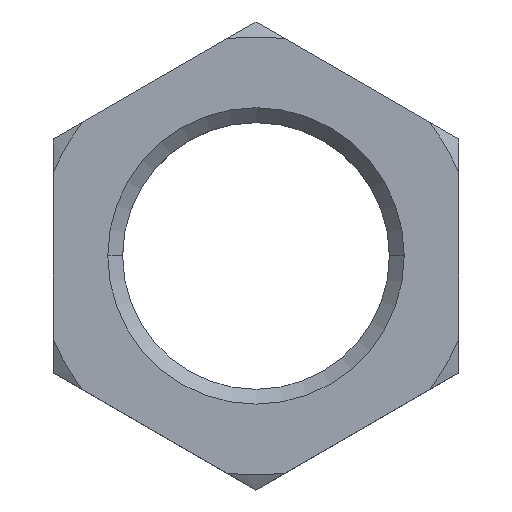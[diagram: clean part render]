
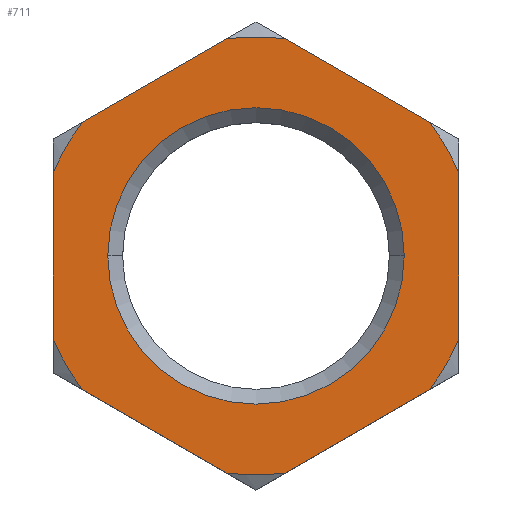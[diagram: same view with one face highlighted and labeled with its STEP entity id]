
A CAD part, top view. The second image highlights one B-rep face of the part: STEP entity #711.
In plain terms, the highlighted planar face has unit normal (0, 0, 1).
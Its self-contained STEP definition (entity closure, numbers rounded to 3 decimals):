
#2 = ORIENTED_EDGE ( 'NONE', *, *, #653, .F. ) ;
#8 = FACE_BOUND ( 'NONE', #648, .T. ) ;
#14 = ORIENTED_EDGE ( 'NONE', *, *, #275, .F. ) ;
#16 = CARTESIAN_POINT ( 'NONE',  ( -20.5, -8.445, 6.2 ) ) ;
#20 = CARTESIAN_POINT ( 'NONE',  ( 2.936, 21.976, 6.2 ) ) ;
#22 = DIRECTION ( 'NONE',  ( 0., -1., 0. ) ) ;
#32 = CARTESIAN_POINT ( 'NONE',  ( 0., 0., 6.2 ) ) ;
#64 = CARTESIAN_POINT ( 'NONE',  ( 0., 0., 6.2 ) ) ;
#65 = CARTESIAN_POINT ( 'NONE',  ( -15., 0., 6.2 ) ) ;
#73 = DIRECTION ( 'NONE',  ( 0., 0., 1. ) ) ;
#74 = DIRECTION ( 'NONE',  ( 1., 0., 0. ) ) ;
#89 = AXIS2_PLACEMENT_3D ( 'NONE', #121, #431, #844 ) ;
#96 = DIRECTION ( 'NONE',  ( 0., 0., -1. ) ) ;
#110 = LINE ( 'NONE', #250, #640 ) ;
#115 = ORIENTED_EDGE ( 'NONE', *, *, #188, .T. ) ;
#118 = EDGE_CURVE ( 'NONE', #346, #229, #159, .T. ) ;
#121 = CARTESIAN_POINT ( 'NONE',  ( 0., 0., 6.2 ) ) ;
#135 = CARTESIAN_POINT ( 'NONE',  ( -2.936, -21.976, 6.2 ) ) ;
#138 = AXIS2_PLACEMENT_3D ( 'NONE', #64, #371, #726 ) ;
#139 = VERTEX_POINT ( 'NONE', #145 ) ;
#143 = LINE ( 'NONE', #600, #769 ) ;
#145 = CARTESIAN_POINT ( 'NONE',  ( -17.564, 13.531, 6.2 ) ) ;
#154 = DIRECTION ( 'NONE',  ( 0., 0., -1. ) ) ;
#159 = LINE ( 'NONE', #791, #871 ) ;
#167 = CARTESIAN_POINT ( 'NONE',  ( 0., 0., 6.2 ) ) ;
#171 = DIRECTION ( 'NONE',  ( 1., 0., 0. ) ) ;
#183 = DIRECTION ( 'NONE',  ( -1., 0., 0. ) ) ;
#188 = EDGE_CURVE ( 'NONE', #361, #869, #110, .T. ) ;
#194 = AXIS2_PLACEMENT_3D ( 'NONE', #32, #758, #183 ) ;
#198 = CARTESIAN_POINT ( 'NONE',  ( 15., 0., 6.2 ) ) ;
#204 = EDGE_CURVE ( 'NONE', #552, #348, #387, .T. ) ;
#224 = DIRECTION ( 'NONE',  ( 0., 0., -1. ) ) ;
#227 = ORIENTED_EDGE ( 'NONE', *, *, #118, .T. ) ;
#229 = VERTEX_POINT ( 'NONE', #20 ) ;
#236 = VECTOR ( 'NONE', #813, 1000. ) ;
#242 = CARTESIAN_POINT ( 'NONE',  ( 0., 0., 6.2 ) ) ;
#246 = AXIS2_PLACEMENT_3D ( 'NONE', #491, #692, #620 ) ;
#250 = CARTESIAN_POINT ( 'NONE',  ( 0., -23.671, 6.2 ) ) ;
#257 = EDGE_CURVE ( 'NONE', #346, #687, #881, .T. ) ;
#261 = DIRECTION ( 'NONE',  ( 0.866, -0.5, 0. ) ) ;
#269 = CIRCLE ( 'NONE', #559, 22.171 ) ;
#273 = CARTESIAN_POINT ( 'NONE',  ( 2.936, -21.976, 6.2 ) ) ;
#275 = EDGE_CURVE ( 'NONE', #369, #139, #608, .T. ) ;
#277 = AXIS2_PLACEMENT_3D ( 'NONE', #167, #96, #171 ) ;
#286 = EDGE_CURVE ( 'NONE', #847, #139, #508, .T. ) ;
#292 = EDGE_CURVE ( 'NONE', #819, #639, #700, .T. ) ;
#295 = DIRECTION ( 'NONE',  ( -1., 0., 0. ) ) ;
#312 = ORIENTED_EDGE ( 'NONE', *, *, #257, .F. ) ;
#337 = ORIENTED_EDGE ( 'NONE', *, *, #204, .T. ) ;
#345 = EDGE_CURVE ( 'NONE', #348, #552, #534, .T. ) ;
#346 = VERTEX_POINT ( 'NONE', #436 ) ;
#348 = VERTEX_POINT ( 'NONE', #198 ) ;
#360 = AXIS2_PLACEMENT_3D ( 'NONE', #367, #514, #295 ) ;
#361 = VERTEX_POINT ( 'NONE', #273 ) ;
#367 = CARTESIAN_POINT ( 'NONE',  ( 0., 0., 6.2 ) ) ;
#369 = VERTEX_POINT ( 'NONE', #905 ) ;
#371 = DIRECTION ( 'NONE',  ( 0., 0., -1. ) ) ;
#387 = CIRCLE ( 'NONE', #277, 15. ) ;
#391 = PLANE ( 'NONE',  #656 ) ;
#408 = DIRECTION ( 'NONE',  ( -0.866, -0.5, 0. ) ) ;
#410 = CIRCLE ( 'NONE', #563, 22.171 ) ;
#414 = CARTESIAN_POINT ( 'NONE',  ( -17.564, -13.531, 6.2 ) ) ;
#422 = CARTESIAN_POINT ( 'NONE',  ( 0., 23.671, 6.2 ) ) ;
#431 = DIRECTION ( 'NONE',  ( 0., 0., -1. ) ) ;
#436 = CARTESIAN_POINT ( 'NONE',  ( 17.564, 13.531, 6.2 ) ) ;
#443 = EDGE_CURVE ( 'NONE', #819, #615, #625, .T. ) ;
#454 = EDGE_CURVE ( 'NONE', #847, #229, #269, .T. ) ;
#458 = DIRECTION ( 'NONE',  ( -0.866, 0.5, 0. ) ) ;
#474 = EDGE_CURVE ( 'NONE', #630, #869, #848, .T. ) ;
#491 = CARTESIAN_POINT ( 'NONE',  ( 0., 0., 6.2 ) ) ;
#508 = LINE ( 'NONE', #422, #770 ) ;
#509 = CARTESIAN_POINT ( 'NONE',  ( 20.5, -8.445, 6.2 ) ) ;
#514 = DIRECTION ( 'NONE',  ( 0., 0., -1. ) ) ;
#534 = CIRCLE ( 'NONE', #89, 15. ) ;
#552 = VERTEX_POINT ( 'NONE', #65 ) ;
#556 = EDGE_LOOP ( 'NONE', ( #846, #631, #312, #227, #841, #855, #14, #759, #565, #603, #2, #115 ) ) ;
#559 = AXIS2_PLACEMENT_3D ( 'NONE', #795, #224, #644 ) ;
#563 = AXIS2_PLACEMENT_3D ( 'NONE', #799, #154, #666 ) ;
#565 = ORIENTED_EDGE ( 'NONE', *, *, #443, .F. ) ;
#596 = CARTESIAN_POINT ( 'NONE',  ( 20.5, 8.445, 6.2 ) ) ;
#600 = CARTESIAN_POINT ( 'NONE',  ( -20.5, 11.836, 6.2 ) ) ;
#603 = ORIENTED_EDGE ( 'NONE', *, *, #292, .T. ) ;
#607 = FACE_OUTER_BOUND ( 'NONE', #556, .T. ) ;
#608 = CIRCLE ( 'NONE', #194, 22.171 ) ;
#615 = VERTEX_POINT ( 'NONE', #16 ) ;
#618 = CARTESIAN_POINT ( 'NONE',  ( 20.5, -11.836, 6.2 ) ) ;
#620 = DIRECTION ( 'NONE',  ( -1., 0., 0. ) ) ;
#625 = CIRCLE ( 'NONE', #360, 22.171 ) ;
#630 = VERTEX_POINT ( 'NONE', #509 ) ;
#631 = ORIENTED_EDGE ( 'NONE', *, *, #903, .T. ) ;
#639 = VERTEX_POINT ( 'NONE', #135 ) ;
#640 = VECTOR ( 'NONE', #680, 1000. ) ;
#644 = DIRECTION ( 'NONE',  ( -1., 0., 0. ) ) ;
#648 = EDGE_LOOP ( 'NONE', ( #715, #337 ) ) ;
#653 = EDGE_CURVE ( 'NONE', #361, #639, #410, .T. ) ;
#656 = AXIS2_PLACEMENT_3D ( 'NONE', #242, #73, #74 ) ;
#666 = DIRECTION ( 'NONE',  ( -1., 0., 0. ) ) ;
#672 = LINE ( 'NONE', #618, #236 ) ;
#678 = CARTESIAN_POINT ( 'NONE',  ( -2.936, 21.976, 6.2 ) ) ;
#680 = DIRECTION ( 'NONE',  ( 0.866, 0.5, 0. ) ) ;
#687 = VERTEX_POINT ( 'NONE', #596 ) ;
#692 = DIRECTION ( 'NONE',  ( 0., 0., -1. ) ) ;
#700 = LINE ( 'NONE', #890, #921 ) ;
#711 = ADVANCED_FACE ( 'NONE', ( #8, #607 ), #391, .T. ) ;
#715 = ORIENTED_EDGE ( 'NONE', *, *, #345, .T. ) ;
#726 = DIRECTION ( 'NONE',  ( -1., 0., 0. ) ) ;
#749 = CARTESIAN_POINT ( 'NONE',  ( 17.564, -13.531, 6.2 ) ) ;
#758 = DIRECTION ( 'NONE',  ( 0., 0., -1. ) ) ;
#759 = ORIENTED_EDGE ( 'NONE', *, *, #779, .T. ) ;
#769 = VECTOR ( 'NONE', #22, 1000. ) ;
#770 = VECTOR ( 'NONE', #408, 1000. ) ;
#779 = EDGE_CURVE ( 'NONE', #369, #615, #143, .T. ) ;
#791 = CARTESIAN_POINT ( 'NONE',  ( 20.5, 11.836, 6.2 ) ) ;
#795 = CARTESIAN_POINT ( 'NONE',  ( 0., 0., 6.2 ) ) ;
#799 = CARTESIAN_POINT ( 'NONE',  ( 0., 0., 6.2 ) ) ;
#813 = DIRECTION ( 'NONE',  ( 0., 1., 0. ) ) ;
#819 = VERTEX_POINT ( 'NONE', #414 ) ;
#841 = ORIENTED_EDGE ( 'NONE', *, *, #454, .F. ) ;
#844 = DIRECTION ( 'NONE',  ( 1., 0., 0. ) ) ;
#846 = ORIENTED_EDGE ( 'NONE', *, *, #474, .F. ) ;
#847 = VERTEX_POINT ( 'NONE', #678 ) ;
#848 = CIRCLE ( 'NONE', #138, 22.171 ) ;
#855 = ORIENTED_EDGE ( 'NONE', *, *, #286, .T. ) ;
#869 = VERTEX_POINT ( 'NONE', #749 ) ;
#871 = VECTOR ( 'NONE', #458, 1000. ) ;
#881 = CIRCLE ( 'NONE', #246, 22.171 ) ;
#890 = CARTESIAN_POINT ( 'NONE',  ( -20.5, -11.836, 6.2 ) ) ;
#903 = EDGE_CURVE ( 'NONE', #630, #687, #672, .T. ) ;
#905 = CARTESIAN_POINT ( 'NONE',  ( -20.5, 8.445, 6.2 ) ) ;
#921 = VECTOR ( 'NONE', #261, 1000. ) ;
